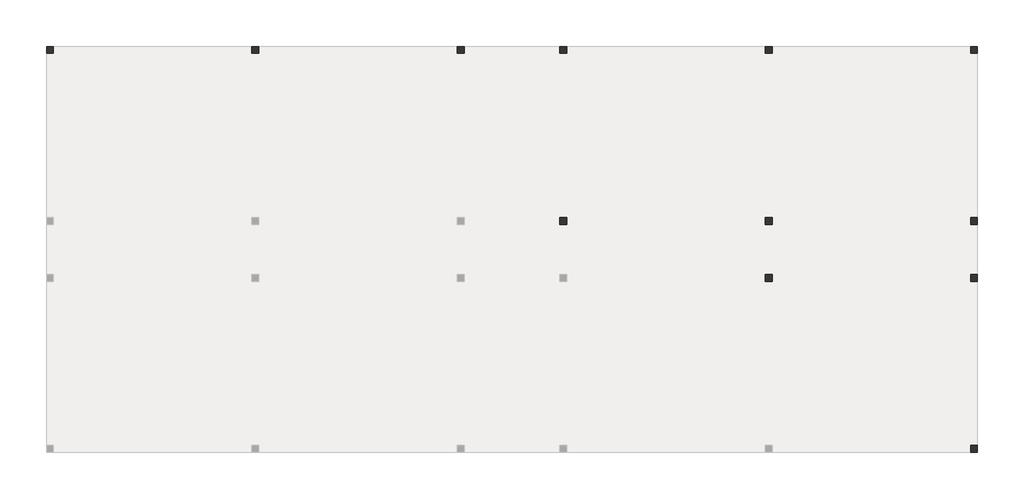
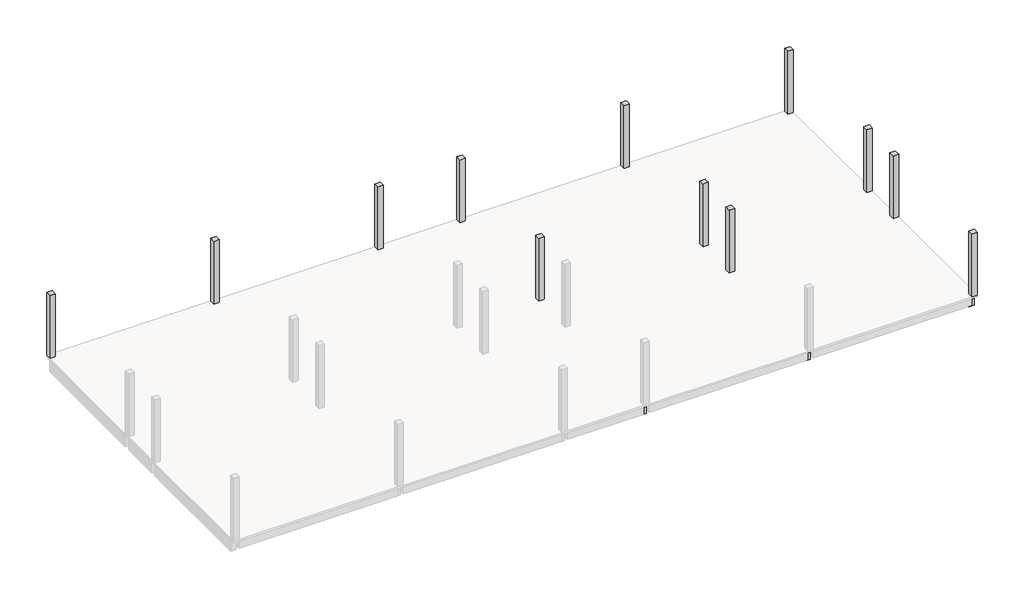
# One storey, part 2 of 2: 12 beams, 12 columns.
"""IFC4 building model written with IfcOpenShell, lengths in millimetres."""

from ifc_helpers import new_model, si_unit, frame, origin, place, context, project, spatial, polyline, outline, extrude, faceted_brep, element, save

model = new_model("IFC4")

# Units and contexts
model_context = context("Model", 3, world=origin())
ifc_project = project(units=[si_unit("LENGTHUNIT", "METRE", prefix="MILLI")], contexts=[model_context])

# Site, building, storey
site = spatial("IfcSite", under=ifc_project)
building = spatial("IfcBuilding", under=site)
storey = spatial("IfcBuildingStorey", under=building, Name="标高 2", Elevation=3000.0)

# Beams
placement = place(None, origin())
element("IfcBeam", 1, ObjectType="混凝土 - 矩形梁 : KL1", at=placement, inside=storey, context=model_context, shape_type="Brep", body=[
    faceted_brep([(1564.7953119, -2804.7297059, 2400.0), (1564.7953119, -8564.7297059, 2400.0), (1564.7953119, -8564.7297059, 2920.0), (1564.7953119, -2804.7297059, 2920.0), (1804.7953119, -8564.7297059, 2400.0), (1804.7953119, -2804.7297059, 2400.0), (1804.7953119, -2804.7297059, 2920.0), (1804.7953119, -4584.7297059, 2920.0), (1804.7953119, -4784.7297059, 2920.0), (1804.7953119, -6584.7297059, 2920.0), (1804.7953119, -6784.7297059, 2920.0), (1804.7953119, -8564.7297059, 2920.0)], [[[0, 1, 2, 3]], [[4, 1, 0, 5]], [[4, 5, 6, 7, 8, 9, 10, 11]], [[1, 4, 11, 2]], [[5, 0, 3, 6]], [[3, 2, 11, 10, 9, 8, 7, 6]]]),
    faceted_brep([(1804.7953119, 5195.2702941, 2400.0), (1564.7953119, 5195.2702941, 2400.0), (1564.7953119, 5195.2702941, 2920.0), (1804.7953119, 5195.2702941, 2920.0), (1564.7953119, -564.7297059, 2400.0), (1804.7953119, -564.7297059, 2400.0), (1804.7953119, -564.7297059, 2920.0), (1564.7953119, -564.7297059, 2920.0), (1804.7953119, 3415.2702941, 2920.0), (1804.7953119, 3215.2702941, 2920.0), (1804.7953119, 1415.2702941, 2920.0), (1804.7953119, 1215.2702941, 2920.0)], [[[0, 1, 2, 3]], [[4, 5, 6, 7]], [[1, 4, 7, 2]], [[1, 0, 5, 4]], [[5, 0, 3, 8, 9, 10, 11, 6]], [[3, 2, 7, 6, 11, 10, 9, 8]]]),
    faceted_brep([(1564.7953119, -2564.7297059, 2400.0), (1804.7953119, -2564.7297059, 2400.0), (1804.7953119, -2564.7297059, 2920.0), (1564.7953119, -2564.7297059, 2920.0), (1564.7953119, -804.7297059, 2400.0), (1564.7953119, -804.7297059, 2920.0), (1804.7953119, -804.7297059, 2400.0), (1804.7953119, -804.7297059, 2920.0)], [[[0, 1, 2, 3]], [[4, 0, 3, 5]], [[1, 0, 4, 6]], [[1, 6, 7, 2]], [[6, 4, 5, 7]], [[3, 2, 7, 5]]]),
])
element("IfcBeam", 2, ObjectType="混凝土 - 矩形梁 : KL1", at=placement, inside=storey, context=model_context, shape_type="SweptSolid", body=[
    extrude(outline(polyline([(-2804.7297059, 2400.0), (-8564.7297059, 2400.0), (-8564.7297059, 2920.0), (-6784.7297059, 2920.0), (-6784.7297059, 2600.0), (-6584.7297059, 2600.0), (-6584.7297059, 2920.0), (-4784.7297059, 2920.0), (-4784.7297059, 2600.0), (-4584.7297059, 2600.0), (-4584.7297059, 2920.0), (-2804.7297059, 2920.0), (-2804.7297059, 2400.0)])), frame((8764.7953119, 0.0, 0.0), z_axis=(1.0, 0.0, 0.0), x_axis=(0.0, 1.0, 0.0)), (0.0, 0.0, 1.0), 240.0),
    extrude(outline(polyline([(5195.2702941, 2400.0), (-564.7297059, 2400.0), (-564.7297059, 2920.0), (1215.2702941, 2920.0), (1215.2702941, 2600.0), (1415.2702941, 2600.0), (1415.2702941, 2920.0), (3215.2702941, 2920.0), (3215.2702941, 2600.0), (3415.2702941, 2600.0), (3415.2702941, 2920.0), (5195.2702941, 2920.0), (5195.2702941, 2400.0)])), frame((8764.7953119, 0.0, 0.0), z_axis=(1.0, 0.0, 0.0), x_axis=(0.0, 1.0, 0.0)), (0.0, 0.0, 1.0), 240.0),
    extrude(outline(polyline([(9004.7953119, -2564.7297059), (8764.7953119, -2564.7297059), (8764.7953119, -804.7297059), (9004.7953119, -804.7297059), (9004.7953119, -2564.7297059)])), frame((0.0, 0.0, 2400.0), z_axis=(0.0, 0.0, 1.0), x_axis=(1.0, 0.0, 0.0)), (0.0, 0.0, 1.0), 520.0),
])
element("IfcBeam", 3, ObjectType="混凝土 - 矩形梁 : KL1", at=placement, inside=storey, context=model_context, shape_type="Brep", body=[
    faceted_brep([(15964.7953119, -2804.7297059, 2400.0), (15964.7953119, -8564.7297059, 2400.0), (15964.7953119, -8564.7297059, 2920.0), (15964.7953119, -6784.7297059, 2920.0), (15964.7953119, -6584.7297059, 2920.0), (15964.7953119, -4784.7297059, 2920.0), (15964.7953119, -4584.7297059, 2920.0), (15964.7953119, -2804.7297059, 2920.0), (16204.7953119, -8564.7297059, 2400.0), (16204.7953119, -2804.7297059, 2400.0), (16204.7953119, -2804.7297059, 2920.0), (16204.7953119, -8564.7297059, 2920.0)], [[[0, 1, 2, 3, 4, 5, 6, 7]], [[8, 1, 0, 9]], [[8, 9, 10, 11]], [[1, 8, 11, 2]], [[9, 0, 7, 10]], [[7, 6, 5, 4, 3, 2, 11, 10]]]),
    faceted_brep([(16204.7953119, 5195.2702941, 2400.0), (15964.7953119, 5195.2702941, 2400.0), (15964.7953119, 5195.2702941, 2920.0), (16204.7953119, 5195.2702941, 2920.0), (15964.7953119, -564.7297059, 2400.0), (16204.7953119, -564.7297059, 2400.0), (16204.7953119, -564.7297059, 2920.0), (15964.7953119, -564.7297059, 2920.0), (15964.7953119, 1215.2702941, 2920.0), (15964.7953119, 1415.2702941, 2920.0), (15964.7953119, 3215.2702941, 2920.0), (15964.7953119, 3415.2702941, 2920.0)], [[[0, 1, 2, 3]], [[4, 5, 6, 7]], [[1, 4, 7, 8, 9, 10, 11, 2]], [[1, 0, 5, 4]], [[5, 0, 3, 6]], [[3, 2, 11, 10, 9, 8, 7, 6]]]),
    faceted_brep([(15964.7953119, -2564.7297059, 2400.0), (16204.7953119, -2564.7297059, 2400.0), (16204.7953119, -2564.7297059, 2920.0), (15964.7953119, -2564.7297059, 2920.0), (15964.7953119, -804.7297059, 2400.0), (15964.7953119, -804.7297059, 2920.0), (16204.7953119, -804.7297059, 2400.0), (16204.7953119, -804.7297059, 2920.0)], [[[0, 1, 2, 3]], [[4, 0, 3, 5]], [[1, 0, 4, 6]], [[1, 6, 7, 2]], [[6, 4, 5, 7]], [[3, 2, 7, 5]]]),
])
element("IfcBeam", 4, ObjectType="混凝土 - 矩形梁 : KL2", at=placement, inside=storey, context=model_context, shape_type="SweptSolid", body=[
    extrude(outline(polyline([(-16195.2046881, 5235.2702941), (-16195.2046881, 5435.2702941), (-9235.2046881, 5435.2702941), (-9235.2046881, 5235.2702941), (-16195.2046881, 5235.2702941)])), frame((0.0, 0.0, 2600.0), z_axis=(0.0, 0.0, 1.0), x_axis=(1.0, 0.0, 0.0)), (0.0, 0.0, 1.0), 320.0),
    extrude(outline(polyline([(15964.7953119, 5435.2702941), (15964.7953119, 5235.2702941), (9004.7953119, 5235.2702941), (9004.7953119, 5435.2702941), (15964.7953119, 5435.2702941)])), frame((0.0, 0.0, 2600.0), z_axis=(0.0, 0.0, 1.0), x_axis=(1.0, 0.0, 0.0)), (0.0, 0.0, 1.0), 320.0),
    extrude(outline(polyline([(-8995.2046881, 5235.2702941), (-8995.2046881, 5435.2702941), (-2035.2046881, 5435.2702941), (-2035.2046881, 5235.2702941), (-8995.2046881, 5235.2702941)])), frame((0.0, 0.0, 2600.0), z_axis=(0.0, 0.0, 1.0), x_axis=(1.0, 0.0, 0.0)), (0.0, 0.0, 1.0), 320.0),
    extrude(outline(polyline([(-1795.2046881, 5235.2702941), (-1795.2046881, 5435.2702941), (1564.7953119, 5435.2702941), (1564.7953119, 5235.2702941), (-1795.2046881, 5235.2702941)])), frame((0.0, 0.0, 2600.0), z_axis=(0.0, 0.0, 1.0), x_axis=(1.0, 0.0, 0.0)), (0.0, 0.0, 1.0), 320.0),
    extrude(outline(polyline([(1804.7953119, 5235.2702941), (1804.7953119, 5435.2702941), (8764.7953119, 5435.2702941), (8764.7953119, 5235.2702941), (1804.7953119, 5235.2702941)])), frame((0.0, 0.0, 2600.0), z_axis=(0.0, 0.0, 1.0), x_axis=(1.0, 0.0, 0.0)), (0.0, 0.0, 1.0), 320.0),
])
element("IfcBeam", 5, ObjectType="混凝土 - 矩形梁 : KL2", at=placement, inside=storey, context=model_context, shape_type="Brep", body=[
    faceted_brep([(-2035.2046881, 1415.2702941, 2600.0), (-8995.2046881, 1415.2702941, 2600.0), (-9235.2046881, 1415.2702941, 2600.0), (-16195.2046881, 1415.2702941, 2600.0), (-16195.2046881, 1415.2702941, 2920.0), (-9235.2046881, 1415.2702941, 2920.0), (-8995.2046881, 1415.2702941, 2920.0), (-2035.2046881, 1415.2702941, 2920.0), (-16195.2046881, 1215.2702941, 2600.0), (-2035.2046881, 1215.2702941, 2600.0), (-8995.2046881, 1215.2702941, 2600.0), (-9235.2046881, 1215.2702941, 2600.0), (-2035.2046881, 1215.2702941, 2920.0), (-8995.2046881, 1215.2702941, 2920.0), (-9235.2046881, 1215.2702941, 2920.0), (-16195.2046881, 1215.2702941, 2920.0)], [[[0, 1, 2, 3, 4, 5, 6, 7]], [[8, 3, 2, 1, 0, 9, 10, 11]], [[8, 11, 10, 9, 12, 13, 14, 15]], [[3, 8, 15, 4]], [[9, 0, 7, 12]], [[7, 6, 5, 4, 15, 14, 13, 12]]]),
])
element("IfcBeam", 6, ObjectType="混凝土 - 矩形梁 : KL2", at=placement, inside=storey, context=model_context, shape_type="Brep", body=[
    faceted_brep([(-2035.2046881, 3415.2702941, 2600.0), (-8995.2046881, 3415.2702941, 2600.0), (-9235.2046881, 3415.2702941, 2600.0), (-16195.2046881, 3415.2702941, 2600.0), (-16195.2046881, 3415.2702941, 2920.0), (-9235.2046881, 3415.2702941, 2920.0), (-8995.2046881, 3415.2702941, 2920.0), (-2035.2046881, 3415.2702941, 2920.0), (-16195.2046881, 3215.2702941, 2600.0), (-2035.2046881, 3215.2702941, 2600.0), (-8995.2046881, 3215.2702941, 2600.0), (-9235.2046881, 3215.2702941, 2600.0), (-2035.2046881, 3215.2702941, 2920.0), (-8995.2046881, 3215.2702941, 2920.0), (-9235.2046881, 3215.2702941, 2920.0), (-16195.2046881, 3215.2702941, 2920.0)], [[[0, 1, 2, 3, 4, 5, 6, 7]], [[8, 3, 2, 1, 0, 9, 10, 11]], [[8, 11, 10, 9, 12, 13, 14, 15]], [[3, 8, 15, 4]], [[9, 0, 7, 12]], [[7, 6, 5, 4, 15, 14, 13, 12]]]),
])
element("IfcBeam", 7, ObjectType="混凝土 - 矩形梁 : KL2", at=placement, inside=storey, context=model_context, shape_type="SweptSolid", body=[
    extrude(outline(polyline([(1804.7953119, -2784.7297059), (1804.7953119, -2584.7297059), (8764.7953119, -2584.7297059), (8764.7953119, -2784.7297059), (1804.7953119, -2784.7297059)])), frame((0.0, 0.0, 2600.0), z_axis=(0.0, 0.0, 1.0), x_axis=(1.0, 0.0, 0.0)), (0.0, 0.0, 1.0), 320.0),
    extrude(outline(polyline([(15964.7953119, -2584.7297059), (15964.7953119, -2784.7297059), (9004.7953119, -2784.7297059), (9004.7953119, -2584.7297059), (15964.7953119, -2584.7297059)])), frame((0.0, 0.0, 2600.0), z_axis=(0.0, 0.0, 1.0), x_axis=(1.0, 0.0, 0.0)), (0.0, 0.0, 1.0), 320.0),
])
element("IfcBeam", 8, ObjectType="混凝土 - 矩形梁 : KL2", at=placement, inside=storey, context=model_context, shape_type="SweptSolid", body=[
    extrude(outline(polyline([(1804.7953119, -784.7297059), (1804.7953119, -584.7297059), (8764.7953119, -584.7297059), (8764.7953119, -784.7297059), (1804.7953119, -784.7297059)])), frame((0.0, 0.0, 2600.0), z_axis=(0.0, 0.0, 1.0), x_axis=(1.0, 0.0, 0.0)), (0.0, 0.0, 1.0), 320.0),
    extrude(outline(polyline([(15964.7953119, -584.7297059), (15964.7953119, -784.7297059), (9004.7953119, -784.7297059), (9004.7953119, -584.7297059), (15964.7953119, -584.7297059)])), frame((0.0, 0.0, 2600.0), z_axis=(0.0, 0.0, 1.0), x_axis=(1.0, 0.0, 0.0)), (0.0, 0.0, 1.0), 320.0),
])
element("IfcBeam", 9, ObjectType="混凝土 - 矩形梁 : KL2", at=placement, inside=storey, context=model_context, shape_type="Brep", body=[
    faceted_brep([(1804.7953119, -4784.7297059, 2600.0), (8764.7953119, -4784.7297059, 2600.0), (9004.7953119, -4784.7297059, 2600.0), (15964.7953119, -4784.7297059, 2600.0), (15964.7953119, -4784.7297059, 2920.0), (9004.7953119, -4784.7297059, 2920.0), (8764.7953119, -4784.7297059, 2920.0), (1804.7953119, -4784.7297059, 2920.0), (1804.7953119, -4584.7297059, 2600.0), (8764.7953119, -4584.7297059, 2600.0), (9004.7953119, -4584.7297059, 2600.0), (15964.7953119, -4584.7297059, 2600.0), (1804.7953119, -4584.7297059, 2920.0), (8764.7953119, -4584.7297059, 2920.0), (9004.7953119, -4584.7297059, 2920.0), (15964.7953119, -4584.7297059, 2920.0)], [[[0, 1, 2, 3, 4, 5, 6, 7]], [[0, 8, 9, 10, 11, 3, 2, 1]], [[11, 10, 9, 8, 12, 13, 14, 15]], [[8, 0, 7, 12]], [[3, 11, 15, 4]], [[7, 6, 5, 4, 15, 14, 13, 12]]]),
])
element("IfcBeam", 10, ObjectType="混凝土 - 矩形梁 : KL2", at=placement, inside=storey, context=model_context, shape_type="Brep", body=[
    faceted_brep([(1804.7953119, -6784.7297059, 2600.0), (8764.7953119, -6784.7297059, 2600.0), (9004.7953119, -6784.7297059, 2600.0), (15964.7953119, -6784.7297059, 2600.0), (15964.7953119, -6784.7297059, 2920.0), (9004.7953119, -6784.7297059, 2920.0), (8764.7953119, -6784.7297059, 2920.0), (1804.7953119, -6784.7297059, 2920.0), (1804.7953119, -6584.7297059, 2600.0), (8764.7953119, -6584.7297059, 2600.0), (9004.7953119, -6584.7297059, 2600.0), (15964.7953119, -6584.7297059, 2600.0), (1804.7953119, -6584.7297059, 2920.0), (8764.7953119, -6584.7297059, 2920.0), (9004.7953119, -6584.7297059, 2920.0), (15964.7953119, -6584.7297059, 2920.0)], [[[0, 1, 2, 3, 4, 5, 6, 7]], [[0, 8, 9, 10, 11, 3, 2, 1]], [[11, 10, 9, 8, 12, 13, 14, 15]], [[8, 0, 7, 12]], [[3, 11, 15, 4]], [[7, 6, 5, 4, 15, 14, 13, 12]]]),
])
element("IfcBeam", 11, ObjectType="混凝土 - 矩形梁 : KL2", at=placement, inside=storey, context=model_context, shape_type="Brep", body=[
    faceted_brep([(15964.7953119, 1415.2702941, 2600.0), (9004.7953119, 1415.2702941, 2600.0), (8764.7953119, 1415.2702941, 2600.0), (1804.7953119, 1415.2702941, 2600.0), (1804.7953119, 1415.2702941, 2920.0), (8764.7953119, 1415.2702941, 2920.0), (9004.7953119, 1415.2702941, 2920.0), (15964.7953119, 1415.2702941, 2920.0), (1804.7953119, 1215.2702941, 2600.0), (15964.7953119, 1215.2702941, 2600.0), (9004.7953119, 1215.2702941, 2600.0), (8764.7953119, 1215.2702941, 2600.0), (15964.7953119, 1215.2702941, 2920.0), (9004.7953119, 1215.2702941, 2920.0), (8764.7953119, 1215.2702941, 2920.0), (1804.7953119, 1215.2702941, 2920.0)], [[[0, 1, 2, 3, 4, 5, 6, 7]], [[8, 3, 2, 1, 0, 9, 10, 11]], [[8, 11, 10, 9, 12, 13, 14, 15]], [[3, 8, 15, 4]], [[9, 0, 7, 12]], [[7, 6, 5, 4, 15, 14, 13, 12]]]),
])
element("IfcBeam", 12, ObjectType="混凝土 - 矩形梁 : KL2", at=placement, inside=storey, context=model_context, shape_type="Brep", body=[
    faceted_brep([(15964.7953119, 3415.2702941, 2600.0), (9004.7953119, 3415.2702941, 2600.0), (8764.7953119, 3415.2702941, 2600.0), (1804.7953119, 3415.2702941, 2600.0), (1804.7953119, 3415.2702941, 2920.0), (8764.7953119, 3415.2702941, 2920.0), (9004.7953119, 3415.2702941, 2920.0), (15964.7953119, 3415.2702941, 2920.0), (1804.7953119, 3215.2702941, 2600.0), (15964.7953119, 3215.2702941, 2600.0), (9004.7953119, 3215.2702941, 2600.0), (8764.7953119, 3215.2702941, 2600.0), (15964.7953119, 3215.2702941, 2920.0), (9004.7953119, 3215.2702941, 2920.0), (8764.7953119, 3215.2702941, 2920.0), (1804.7953119, 3215.2702941, 2920.0)], [[[0, 1, 2, 3, 4, 5, 6, 7]], [[8, 3, 2, 1, 0, 9, 10, 11]], [[8, 11, 10, 9, 12, 13, 14, 15]], [[3, 8, 15, 4]], [[9, 0, 7, 12]], [[7, 6, 5, 4, 15, 14, 13, 12]]]),
])

# Columns
element("IfcColumn", 13, ObjectType="混凝土 - 矩形 - 柱 : KZ", at=placement, inside=storey, context=model_context, shape_type="Brep", body=[
    faceted_brep([(-16195.2046881, 5435.2702941, 3000.0), (-16195.2046881, 5195.2702941, 3000.0), (-16435.2046881, 5195.2702941, 3000.0), (-16435.2046881, 5435.2702941, 3000.0), (-16195.2046881, 5435.2702941, 5600.0), (-16195.2046881, 5435.2702941, 5920.0), (-16195.2046881, 5235.2702941, 5920.0), (-16195.2046881, 5195.2702941, 5920.0), (-16195.2046881, 5195.2702941, 5400.0), (-16435.2046881, 5195.2702941, 5920.0), (-16435.2046881, 5195.2702941, 5400.0), (-16435.2046881, 5435.2702941, 5920.0)], [[[0, 1, 2, 3]], [[1, 0, 4, 5, 6, 7, 8]], [[2, 1, 8, 7, 9, 10]], [[3, 2, 10, 9, 11]], [[0, 3, 11, 5, 4]], [[7, 6, 5, 11, 9]]]),
])
element("IfcColumn", 14, ObjectType="混凝土 - 矩形 - 柱 : KZ", at=placement, inside=storey, context=model_context, shape_type="Brep", body=[
    faceted_brep([(-8995.2046881, 5435.2702941, 3000.0), (-8995.2046881, 5195.2702941, 3000.0), (-9235.2046881, 5195.2702941, 3000.0), (-9235.2046881, 5435.2702941, 3000.0), (-8995.2046881, 5435.2702941, 5600.0), (-8995.2046881, 5435.2702941, 5920.0), (-8995.2046881, 5235.2702941, 5920.0), (-8995.2046881, 5195.2702941, 5920.0), (-8995.2046881, 5195.2702941, 5400.0), (-9235.2046881, 5195.2702941, 5920.0), (-9235.2046881, 5195.2702941, 5400.0), (-9235.2046881, 5235.2702941, 5920.0), (-9235.2046881, 5435.2702941, 5920.0), (-9235.2046881, 5435.2702941, 5600.0)], [[[0, 1, 2, 3]], [[1, 0, 4, 5, 6, 7, 8]], [[2, 1, 8, 7, 9, 10]], [[3, 2, 10, 9, 11, 12, 13]], [[0, 3, 13, 12, 5, 4]], [[7, 6, 5, 12, 11, 9]]]),
])
element("IfcColumn", 15, ObjectType="混凝土 - 矩形 - 柱 : KZ", at=placement, inside=storey, context=model_context, shape_type="Brep", body=[
    faceted_brep([(-1795.2046881, 5435.2702941, 3000.0), (-1795.2046881, 5195.2702941, 3000.0), (-2035.2046881, 5195.2702941, 3000.0), (-2035.2046881, 5435.2702941, 3000.0), (-1795.2046881, 5435.2702941, 5600.0), (-1795.2046881, 5435.2702941, 5920.0), (-1795.2046881, 5235.2702941, 5920.0), (-1795.2046881, 5195.2702941, 5920.0), (-1795.2046881, 5195.2702941, 5400.0), (-2035.2046881, 5195.2702941, 5920.0), (-2035.2046881, 5195.2702941, 5400.0), (-2035.2046881, 5235.2702941, 5920.0), (-2035.2046881, 5435.2702941, 5920.0), (-2035.2046881, 5435.2702941, 5600.0)], [[[0, 1, 2, 3]], [[1, 0, 4, 5, 6, 7, 8]], [[2, 1, 8, 7, 9, 10]], [[3, 2, 10, 9, 11, 12, 13]], [[0, 3, 13, 12, 5, 4]], [[7, 6, 5, 12, 11, 9]]]),
])
element("IfcColumn", 16, ObjectType="混凝土 - 矩形 - 柱 : KZ", at=placement, inside=storey, context=model_context, shape_type="Brep", body=[
    faceted_brep([(1804.7953119, -564.7297059, 3000.0), (1804.7953119, -804.7297059, 3000.0), (1564.7953119, -804.7297059, 3000.0), (1564.7953119, -564.7297059, 3000.0), (1804.7953119, -564.7297059, 5400.0), (1804.7953119, -564.7297059, 5920.0), (1804.7953119, -584.7297059, 5920.0), (1804.7953119, -784.7297059, 5920.0), (1804.7953119, -804.7297059, 5920.0), (1804.7953119, -804.7297059, 5400.0), (1564.7953119, -804.7297059, 5920.0), (1564.7953119, -804.7297059, 5400.0), (1564.7953119, -584.7297059, 5920.0), (1564.7953119, -564.7297059, 5920.0), (1564.7953119, -564.7297059, 5400.0)], [[[0, 1, 2, 3]], [[1, 0, 4, 5, 6, 7, 8, 9]], [[2, 1, 9, 8, 10, 11]], [[3, 2, 11, 10, 12, 13, 14]], [[0, 3, 14, 13, 5, 4]], [[8, 7, 6, 5, 13, 12, 10]]]),
])
element("IfcColumn", 17, ObjectType="混凝土 - 矩形 - 柱 : KZ", at=placement, inside=storey, context=model_context, shape_type="Brep", body=[
    faceted_brep([(1804.7953119, 5435.2702941, 3000.0), (1804.7953119, 5195.2702941, 3000.0), (1564.7953119, 5195.2702941, 3000.0), (1564.7953119, 5435.2702941, 3000.0), (1804.7953119, 5435.2702941, 5600.0), (1804.7953119, 5435.2702941, 5920.0), (1804.7953119, 5235.2702941, 5920.0), (1804.7953119, 5195.2702941, 5920.0), (1804.7953119, 5195.2702941, 5400.0), (1564.7953119, 5195.2702941, 5920.0), (1564.7953119, 5195.2702941, 5400.0), (1564.7953119, 5235.2702941, 5920.0), (1564.7953119, 5435.2702941, 5920.0), (1564.7953119, 5435.2702941, 5600.0)], [[[0, 1, 2, 3]], [[1, 0, 4, 5, 6, 7, 8]], [[2, 1, 8, 7, 9, 10]], [[3, 2, 10, 9, 11, 12, 13]], [[0, 3, 13, 12, 5, 4]], [[7, 6, 5, 12, 11, 9]]]),
])
element("IfcColumn", 18, ObjectType="混凝土 - 矩形 - 柱 : KZ", at=placement, inside=storey, context=model_context, shape_type="Brep", body=[
    faceted_brep([(9004.7953119, -2564.7297059, 3000.0), (9004.7953119, -2804.7297059, 3000.0), (8764.7953119, -2804.7297059, 3000.0), (8764.7953119, -2564.7297059, 3000.0), (9004.7953119, -2564.7297059, 5400.0), (9004.7953119, -2564.7297059, 5920.0), (9004.7953119, -2584.7297059, 5920.0), (9004.7953119, -2784.7297059, 5920.0), (9004.7953119, -2804.7297059, 5920.0), (9004.7953119, -2804.7297059, 5400.0), (8764.7953119, -2804.7297059, 5920.0), (8764.7953119, -2804.7297059, 5400.0), (8764.7953119, -2784.7297059, 5920.0), (8764.7953119, -2584.7297059, 5920.0), (8764.7953119, -2564.7297059, 5920.0), (8764.7953119, -2564.7297059, 5400.0)], [[[0, 1, 2, 3]], [[1, 0, 4, 5, 6, 7, 8, 9]], [[2, 1, 9, 8, 10, 11]], [[3, 2, 11, 10, 12, 13, 14, 15]], [[0, 3, 15, 14, 5, 4]], [[8, 7, 6, 5, 14, 13, 12, 10]]]),
])
element("IfcColumn", 19, ObjectType="混凝土 - 矩形 - 柱 : KZ", at=placement, inside=storey, context=model_context, shape_type="Brep", body=[
    faceted_brep([(9004.7953119, -564.7297059, 3000.0), (9004.7953119, -804.7297059, 3000.0), (8764.7953119, -804.7297059, 3000.0), (8764.7953119, -564.7297059, 3000.0), (9004.7953119, -564.7297059, 5400.0), (9004.7953119, -564.7297059, 5920.0), (9004.7953119, -584.7297059, 5920.0), (9004.7953119, -784.7297059, 5920.0), (9004.7953119, -804.7297059, 5920.0), (9004.7953119, -804.7297059, 5400.0), (8764.7953119, -804.7297059, 5920.0), (8764.7953119, -804.7297059, 5400.0), (8764.7953119, -784.7297059, 5920.0), (8764.7953119, -584.7297059, 5920.0), (8764.7953119, -564.7297059, 5920.0), (8764.7953119, -564.7297059, 5400.0)], [[[0, 1, 2, 3]], [[1, 0, 4, 5, 6, 7, 8, 9]], [[2, 1, 9, 8, 10, 11]], [[3, 2, 11, 10, 12, 13, 14, 15]], [[0, 3, 15, 14, 5, 4]], [[8, 7, 6, 5, 14, 13, 12, 10]]]),
])
element("IfcColumn", 20, ObjectType="混凝土 - 矩形 - 柱 : KZ", at=placement, inside=storey, context=model_context, shape_type="Brep", body=[
    faceted_brep([(9004.7953119, 5435.2702941, 3000.0), (9004.7953119, 5195.2702941, 3000.0), (8764.7953119, 5195.2702941, 3000.0), (8764.7953119, 5435.2702941, 3000.0), (9004.7953119, 5435.2702941, 5600.0), (9004.7953119, 5435.2702941, 5920.0), (9004.7953119, 5235.2702941, 5920.0), (9004.7953119, 5195.2702941, 5920.0), (9004.7953119, 5195.2702941, 5400.0), (8764.7953119, 5195.2702941, 5920.0), (8764.7953119, 5195.2702941, 5400.0), (8764.7953119, 5235.2702941, 5920.0), (8764.7953119, 5435.2702941, 5920.0), (8764.7953119, 5435.2702941, 5600.0)], [[[0, 1, 2, 3]], [[1, 0, 4, 5, 6, 7, 8]], [[2, 1, 8, 7, 9, 10]], [[3, 2, 10, 9, 11, 12, 13]], [[0, 3, 13, 12, 5, 4]], [[7, 6, 5, 12, 11, 9]]]),
])
element("IfcColumn", 21, ObjectType="混凝土 - 矩形 - 柱 : KZ", at=placement, inside=storey, context=model_context, shape_type="Brep", body=[
    faceted_brep([(16204.7953119, -8564.7297059, 3000.0), (16204.7953119, -8804.7297059, 3000.0), (15964.7953119, -8804.7297059, 3000.0), (15964.7953119, -8564.7297059, 3000.0), (16204.7953119, -8564.7297059, 5400.0), (16204.7953119, -8564.7297059, 5920.0), (16204.7953119, -8804.7297059, 5920.0), (15964.7953119, -8804.7297059, 5920.0), (15964.7953119, -8804.7297059, 5600.0), (15964.7953119, -8604.7297059, 5920.0), (15964.7953119, -8564.7297059, 5920.0), (15964.7953119, -8564.7297059, 5400.0)], [[[0, 1, 2, 3]], [[1, 0, 4, 5, 6]], [[2, 1, 6, 7, 8]], [[3, 2, 8, 7, 9, 10, 11]], [[0, 3, 11, 10, 5, 4]], [[6, 5, 10, 9, 7]]]),
])
element("IfcColumn", 22, ObjectType="混凝土 - 矩形 - 柱 : KZ", at=placement, inside=storey, context=model_context, shape_type="Brep", body=[
    faceted_brep([(16204.7953119, -2564.7297059, 3000.0), (16204.7953119, -2804.7297059, 3000.0), (15964.7953119, -2804.7297059, 3000.0), (15964.7953119, -2564.7297059, 3000.0), (16204.7953119, -2564.7297059, 5400.0), (16204.7953119, -2564.7297059, 5920.0), (16204.7953119, -2804.7297059, 5920.0), (16204.7953119, -2804.7297059, 5400.0), (15964.7953119, -2804.7297059, 5920.0), (15964.7953119, -2804.7297059, 5400.0), (15964.7953119, -2784.7297059, 5920.0), (15964.7953119, -2584.7297059, 5920.0), (15964.7953119, -2564.7297059, 5920.0), (15964.7953119, -2564.7297059, 5400.0)], [[[0, 1, 2, 3]], [[1, 0, 4, 5, 6, 7]], [[2, 1, 7, 6, 8, 9]], [[3, 2, 9, 8, 10, 11, 12, 13]], [[0, 3, 13, 12, 5, 4]], [[6, 5, 12, 11, 10, 8]]]),
])
element("IfcColumn", 23, ObjectType="混凝土 - 矩形 - 柱 : KZ", at=placement, inside=storey, context=model_context, shape_type="Brep", body=[
    faceted_brep([(16204.7953119, -564.7297059, 3000.0), (16204.7953119, -804.7297059, 3000.0), (15964.7953119, -804.7297059, 3000.0), (15964.7953119, -564.7297059, 3000.0), (16204.7953119, -564.7297059, 5400.0), (16204.7953119, -564.7297059, 5920.0), (16204.7953119, -804.7297059, 5920.0), (16204.7953119, -804.7297059, 5400.0), (15964.7953119, -804.7297059, 5920.0), (15964.7953119, -804.7297059, 5400.0), (15964.7953119, -784.7297059, 5920.0), (15964.7953119, -584.7297059, 5920.0), (15964.7953119, -564.7297059, 5920.0), (15964.7953119, -564.7297059, 5400.0)], [[[0, 1, 2, 3]], [[1, 0, 4, 5, 6, 7]], [[2, 1, 7, 6, 8, 9]], [[3, 2, 9, 8, 10, 11, 12, 13]], [[0, 3, 13, 12, 5, 4]], [[6, 5, 12, 11, 10, 8]]]),
])
element("IfcColumn", 24, ObjectType="混凝土 - 矩形 - 柱 : KZ", at=placement, inside=storey, context=model_context, shape_type="Brep", body=[
    faceted_brep([(16204.7953119, 5435.2702941, 3000.0), (16204.7953119, 5195.2702941, 3000.0), (15964.7953119, 5195.2702941, 3000.0), (15964.7953119, 5435.2702941, 3000.0), (16204.7953119, 5435.2702941, 5920.0), (16204.7953119, 5195.2702941, 5920.0), (16204.7953119, 5195.2702941, 5400.0), (15964.7953119, 5195.2702941, 5920.0), (15964.7953119, 5195.2702941, 5400.0), (15964.7953119, 5235.2702941, 5920.0), (15964.7953119, 5435.2702941, 5920.0), (15964.7953119, 5435.2702941, 5600.0)], [[[0, 1, 2, 3]], [[1, 0, 4, 5, 6]], [[2, 1, 6, 5, 7, 8]], [[3, 2, 8, 7, 9, 10, 11]], [[0, 3, 11, 10, 4]], [[5, 4, 10, 9, 7]]]),
])

save(model, "model.ifc")
